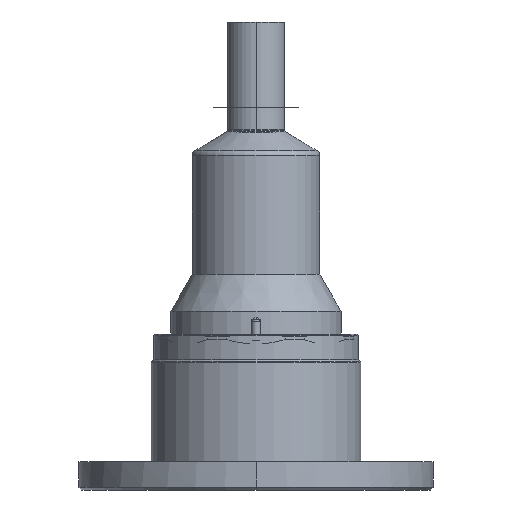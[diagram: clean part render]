
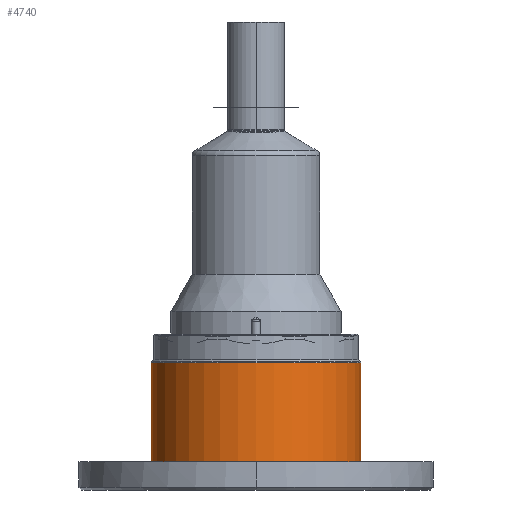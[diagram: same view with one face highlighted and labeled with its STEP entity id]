
A CAD part, front view. The second image highlights one B-rep face of the part: STEP entity #4740.
In plain terms, the highlighted cylindrical face has radius 37 mm (diameter 74 mm), a partial arc.
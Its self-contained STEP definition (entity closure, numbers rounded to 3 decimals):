
#34 = DIRECTION ( 'NONE',  ( 1., 0., 0. ) ) ;
#172 = EDGE_LOOP ( 'NONE', ( #25004, #32427, #32518, #26176 ) ) ;
#510 = CARTESIAN_POINT ( 'NONE',  ( 37., 0., 0. ) ) ;
#2880 = EDGE_CURVE ( 'NONE', #22219, #4020, #19150, .T. ) ;
#3806 = VERTEX_POINT ( 'NONE', #20256 ) ;
#4020 = VERTEX_POINT ( 'NONE', #31133 ) ;
#4182 = AXIS2_PLACEMENT_3D ( 'NONE', #23394, #6057, #34 ) ;
#4740 = ADVANCED_FACE ( 'NONE', ( #30100 ), #31125, .T. ) ;
#6057 = DIRECTION ( 'NONE',  ( 0., 0., 1. ) ) ;
#6362 = AXIS2_PLACEMENT_3D ( 'NONE', #29770, #32759, #15254 ) ;
#8369 = DIRECTION ( 'NONE',  ( 0., 0., 1. ) ) ;
#9430 = CIRCLE ( 'NONE', #22069, 37. ) ;
#11300 = CARTESIAN_POINT ( 'NONE',  ( -37., 0., 34.793 ) ) ;
#13511 = DIRECTION ( 'NONE',  ( 0., 1., 0. ) ) ;
#13769 = CARTESIAN_POINT ( 'NONE',  ( -37., 0., 35. ) ) ;
#15254 = DIRECTION ( 'NONE',  ( 1., 0., 0. ) ) ;
#17302 = VECTOR ( 'NONE', #26766, 1000. ) ;
#18166 = EDGE_CURVE ( 'NONE', #19067, #4020, #25458, .T. ) ;
#19067 = VERTEX_POINT ( 'NONE', #11300 ) ;
#19098 = VECTOR ( 'NONE', #8369, 1000. ) ;
#19150 = LINE ( 'NONE', #24328, #17302 ) ;
#20256 = CARTESIAN_POINT ( 'NONE',  ( -37., 0., 0. ) ) ;
#22069 = AXIS2_PLACEMENT_3D ( 'NONE', #27924, #30987, #13511 ) ;
#22219 = VERTEX_POINT ( 'NONE', #510 ) ;
#22823 = LINE ( 'NONE', #13769, #19098 ) ;
#23394 = CARTESIAN_POINT ( 'NONE',  ( 0., 0., 34.793 ) ) ;
#24328 = CARTESIAN_POINT ( 'NONE',  ( 37., 0., 35. ) ) ;
#25004 = ORIENTED_EDGE ( 'NONE', *, *, #27636, .F. ) ;
#25458 = CIRCLE ( 'NONE', #4182, 37. ) ;
#26176 = ORIENTED_EDGE ( 'NONE', *, *, #18166, .F. ) ;
#26766 = DIRECTION ( 'NONE',  ( 0., 0., 1. ) ) ;
#27412 = EDGE_CURVE ( 'NONE', #3806, #22219, #9430, .T. ) ;
#27636 = EDGE_CURVE ( 'NONE', #3806, #19067, #22823, .T. ) ;
#27924 = CARTESIAN_POINT ( 'NONE',  ( 0., 0., 0. ) ) ;
#29770 = CARTESIAN_POINT ( 'NONE',  ( 0., 0., 35. ) ) ;
#30100 = FACE_OUTER_BOUND ( 'NONE', #172, .T. ) ;
#30987 = DIRECTION ( 'NONE',  ( 0., 0., 1. ) ) ;
#31125 = CYLINDRICAL_SURFACE ( 'NONE', #6362, 37. ) ;
#31133 = CARTESIAN_POINT ( 'NONE',  ( 37., 0., 34.793 ) ) ;
#32427 = ORIENTED_EDGE ( 'NONE', *, *, #27412, .T. ) ;
#32518 = ORIENTED_EDGE ( 'NONE', *, *, #2880, .T. ) ;
#32759 = DIRECTION ( 'NONE',  ( 0., 0., 1. ) ) ;
